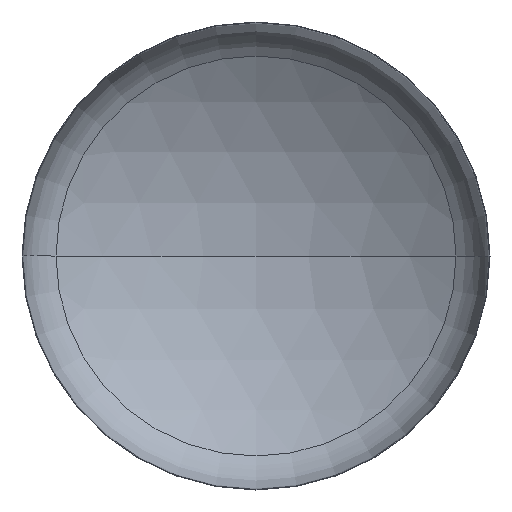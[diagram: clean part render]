
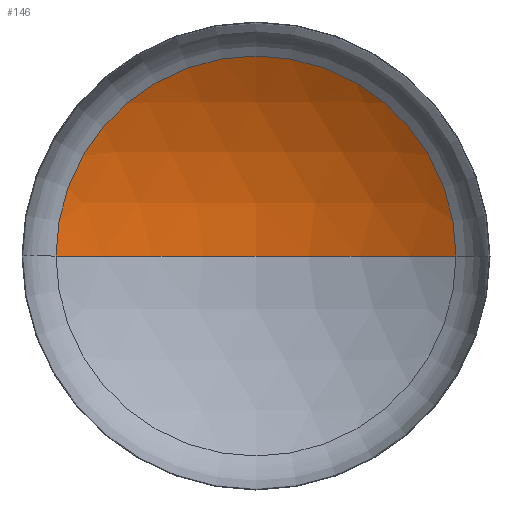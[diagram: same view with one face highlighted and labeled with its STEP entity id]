
A CAD part, front view. The second image highlights one B-rep face of the part: STEP entity #146.
In plain terms, the highlighted spherical face has radius 4400 mm.
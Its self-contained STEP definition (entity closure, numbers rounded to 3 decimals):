
#12 = DIRECTION ( 'NONE',  ( 1., 0., 0. ) ) ;
#14 = CARTESIAN_POINT ( 'NONE',  ( 0., -2985.299, 0. ) ) ;
#19 = ORIENTED_EDGE ( 'NONE', *, *, #69, .T. ) ;
#50 = DIRECTION ( 'NONE',  ( 1., 0., 0. ) ) ;
#54 = CARTESIAN_POINT ( 'NONE',  ( 0., 1414.701, 0. ) ) ;
#56 = ORIENTED_EDGE ( 'NONE', *, *, #91, .F. ) ;
#69 = EDGE_CURVE ( 'NONE', #97, #346, #111, .T. ) ;
#72 = FACE_OUTER_BOUND ( 'NONE', #95, .T. ) ;
#80 = EDGE_CURVE ( 'NONE', #135, #97, #402, .T. ) ;
#81 = DIRECTION ( 'NONE',  ( 0., 0., -1. ) ) ;
#91 = EDGE_CURVE ( 'NONE', #135, #346, #311, .T. ) ;
#95 = EDGE_LOOP ( 'NONE', ( #56, #264, #19 ) ) ;
#97 = VERTEX_POINT ( 'NONE', #328 ) ;
#102 = SPHERICAL_SURFACE ( 'NONE', #153, 4400. ) ;
#111 = CIRCLE ( 'NONE', #293, 2350.38 ) ;
#135 = VERTEX_POINT ( 'NONE', #54 ) ;
#146 = ADVANCED_FACE ( 'NONE', ( #72 ), #102, .F. ) ;
#153 = AXIS2_PLACEMENT_3D ( 'NONE', #332, #397, #243 ) ;
#197 = DIRECTION ( 'NONE',  ( 0., -1., 0. ) ) ;
#231 = DIRECTION ( 'NONE',  ( 0., 0., 1. ) ) ;
#243 = DIRECTION ( 'NONE',  ( -1., 0., 0. ) ) ;
#256 = AXIS2_PLACEMENT_3D ( 'NONE', #14, #231, #50 ) ;
#257 = CARTESIAN_POINT ( 'NONE',  ( 0., -2985.299, 0. ) ) ;
#264 = ORIENTED_EDGE ( 'NONE', *, *, #80, .T. ) ;
#276 = AXIS2_PLACEMENT_3D ( 'NONE', #257, #81, #292 ) ;
#292 = DIRECTION ( 'NONE',  ( -1., 0., 0. ) ) ;
#293 = AXIS2_PLACEMENT_3D ( 'NONE', #392, #197, #12 ) ;
#311 = CIRCLE ( 'NONE', #256, 4400. ) ;
#316 = CARTESIAN_POINT ( 'NONE',  ( -2350.38, 734.34, 0. ) ) ;
#328 = CARTESIAN_POINT ( 'NONE',  ( 2350.38, 734.34, 0. ) ) ;
#332 = CARTESIAN_POINT ( 'NONE',  ( 0., -2985.299, 0. ) ) ;
#346 = VERTEX_POINT ( 'NONE', #316 ) ;
#392 = CARTESIAN_POINT ( 'NONE',  ( 0., 734.34, 0. ) ) ;
#397 = DIRECTION ( 'NONE',  ( 0., 0., -1. ) ) ;
#402 = CIRCLE ( 'NONE', #276, 4400. ) ;
